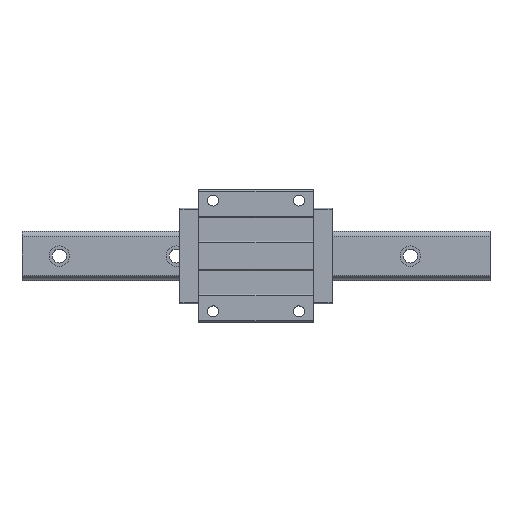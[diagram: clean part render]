
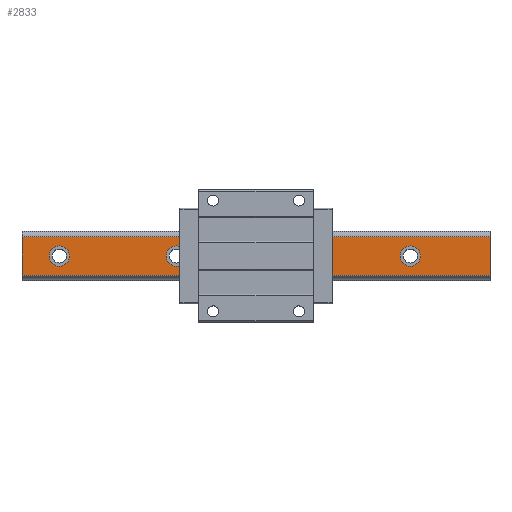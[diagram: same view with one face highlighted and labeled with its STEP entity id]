
A CAD part, top view. The second image highlights one B-rep face of the part: STEP entity #2833.
In plain terms, the highlighted planar face has unit normal (0, 0, 1).
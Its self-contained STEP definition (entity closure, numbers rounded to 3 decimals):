
#86 = VERTEX_POINT ( 'NONE', #6831 ) ;
#120 = CARTESIAN_POINT ( 'NONE',  ( 198., 0., 53. ) ) ;
#127 = AXIS2_PLACEMENT_3D ( 'NONE', #840, #4719, #6979 ) ;
#132 = DIRECTION ( 'NONE',  ( 1., 0., 0. ) ) ;
#221 = ORIENTED_EDGE ( 'NONE', *, *, #2908, .F. ) ;
#354 = VECTOR ( 'NONE', #6752, 1000. ) ;
#395 = CARTESIAN_POINT ( 'NONE',  ( -300., 24.864, 53. ) ) ;
#460 = CARTESIAN_POINT ( 'NONE',  ( -102., 0., 53. ) ) ;
#468 = FACE_BOUND ( 'NONE', #4898, .T. ) ;
#471 = CIRCLE ( 'NONE', #127, 13. ) ;
#628 = CARTESIAN_POINT ( 'NONE',  ( 198., 0., 53. ) ) ;
#787 = DIRECTION ( 'NONE',  ( 0., 0., 1. ) ) ;
#840 = CARTESIAN_POINT ( 'NONE',  ( 48., 0., 53. ) ) ;
#1103 = DIRECTION ( 'NONE',  ( 1., 0., 0. ) ) ;
#1121 = ORIENTED_EDGE ( 'NONE', *, *, #1409, .F. ) ;
#1158 = DIRECTION ( 'NONE',  ( 0., 0., 1. ) ) ;
#1159 = EDGE_LOOP ( 'NONE', ( #6527, #7162, #7146, #1710 ) ) ;
#1172 = EDGE_CURVE ( 'NONE', #5797, #2876, #3180, .T. ) ;
#1303 = VERTEX_POINT ( 'NONE', #5754 ) ;
#1350 = ORIENTED_EDGE ( 'NONE', *, *, #5137, .F. ) ;
#1366 = CARTESIAN_POINT ( 'NONE',  ( 300., 24.864, 53. ) ) ;
#1373 = EDGE_CURVE ( 'NONE', #1303, #5797, #6455, .T. ) ;
#1409 = EDGE_CURVE ( 'NONE', #2025, #6217, #471, .T. ) ;
#1435 = ORIENTED_EDGE ( 'NONE', *, *, #2199, .F. ) ;
#1524 = VERTEX_POINT ( 'NONE', #6157 ) ;
#1606 = VECTOR ( 'NONE', #2531, 1000. ) ;
#1622 = EDGE_CURVE ( 'NONE', #6217, #2025, #2277, .T. ) ;
#1668 = DIRECTION ( 'NONE',  ( 1., 0., 0. ) ) ;
#1677 = FACE_OUTER_BOUND ( 'NONE', #1159, .T. ) ;
#1698 = CARTESIAN_POINT ( 'NONE',  ( 61., 0., 53. ) ) ;
#1710 = ORIENTED_EDGE ( 'NONE', *, *, #3710, .T. ) ;
#1722 = CARTESIAN_POINT ( 'NONE',  ( 211., 0., 53. ) ) ;
#1747 = DIRECTION ( 'NONE',  ( 0., 0., 1. ) ) ;
#1758 = CIRCLE ( 'NONE', #4096, 13. ) ;
#1759 = CARTESIAN_POINT ( 'NONE',  ( -102., 0., 53. ) ) ;
#1803 = EDGE_LOOP ( 'NONE', ( #5513, #4900 ) ) ;
#1810 = CIRCLE ( 'NONE', #5593, 13. ) ;
#1844 = DIRECTION ( 'NONE',  ( 0., 0., 1. ) ) ;
#1872 = CIRCLE ( 'NONE', #4600, 13. ) ;
#1914 = CARTESIAN_POINT ( 'NONE',  ( -252., 0., 53. ) ) ;
#1969 = CARTESIAN_POINT ( 'NONE',  ( 300., -24.864, 53. ) ) ;
#2025 = VERTEX_POINT ( 'NONE', #1698 ) ;
#2134 = EDGE_CURVE ( 'NONE', #2624, #4894, #1872, .T. ) ;
#2199 = EDGE_CURVE ( 'NONE', #1524, #2815, #7081, .T. ) ;
#2230 = CARTESIAN_POINT ( 'NONE',  ( -252., 0., 53. ) ) ;
#2277 = CIRCLE ( 'NONE', #5469, 13. ) ;
#2394 = CARTESIAN_POINT ( 'NONE',  ( 185., 0., 53. ) ) ;
#2443 = DIRECTION ( 'NONE',  ( 1., 0., 0. ) ) ;
#2482 = DIRECTION ( 'NONE',  ( 1., 0., 0. ) ) ;
#2531 = DIRECTION ( 'NONE',  ( -1., 0., 0. ) ) ;
#2624 = VERTEX_POINT ( 'NONE', #2394 ) ;
#2755 = DIRECTION ( 'NONE',  ( 0., 1., 0. ) ) ;
#2797 = EDGE_LOOP ( 'NONE', ( #1121, #4417 ) ) ;
#2815 = VERTEX_POINT ( 'NONE', #3468 ) ;
#2833 = ADVANCED_FACE ( 'NONE', ( #5682, #2869, #7317, #468, #1677 ), #5057, .F. ) ;
#2869 = FACE_BOUND ( 'NONE', #2797, .T. ) ;
#2876 = VERTEX_POINT ( 'NONE', #5133 ) ;
#2908 = EDGE_CURVE ( 'NONE', #3895, #86, #7287, .T. ) ;
#2912 = DIRECTION ( 'NONE',  ( 1., 0., 0. ) ) ;
#3106 = VECTOR ( 'NONE', #6491, 1000. ) ;
#3180 = LINE ( 'NONE', #3765, #354 ) ;
#3384 = DIRECTION ( 'NONE',  ( 0., 0., 1. ) ) ;
#3408 = AXIS2_PLACEMENT_3D ( 'NONE', #460, #7265, #1103 ) ;
#3468 = CARTESIAN_POINT ( 'NONE',  ( -239., 0., 53. ) ) ;
#3642 = AXIS2_PLACEMENT_3D ( 'NONE', #1914, #787, #2482 ) ;
#3687 = CARTESIAN_POINT ( 'NONE',  ( 300., -24.864, 53. ) ) ;
#3710 = EDGE_CURVE ( 'NONE', #1303, #6317, #4301, .T. ) ;
#3765 = CARTESIAN_POINT ( 'NONE',  ( 300., -24.864, 53. ) ) ;
#3775 = EDGE_LOOP ( 'NONE', ( #221, #1350 ) ) ;
#3895 = VERTEX_POINT ( 'NONE', #6741 ) ;
#4014 = DIRECTION ( 'NONE',  ( 1., 0., 0. ) ) ;
#4088 = AXIS2_PLACEMENT_3D ( 'NONE', #1759, #5569, #4014 ) ;
#4096 = AXIS2_PLACEMENT_3D ( 'NONE', #628, #1158, #2912 ) ;
#4239 = CARTESIAN_POINT ( 'NONE',  ( 35., 0., 53. ) ) ;
#4301 = LINE ( 'NONE', #1366, #1606 ) ;
#4344 = CIRCLE ( 'NONE', #3408, 13. ) ;
#4417 = ORIENTED_EDGE ( 'NONE', *, *, #1622, .F. ) ;
#4600 = AXIS2_PLACEMENT_3D ( 'NONE', #120, #1844, #2443 ) ;
#4640 = CARTESIAN_POINT ( 'NONE',  ( 48., 0., 53. ) ) ;
#4719 = DIRECTION ( 'NONE',  ( 0., 0., 1. ) ) ;
#4894 = VERTEX_POINT ( 'NONE', #1722 ) ;
#4898 = EDGE_LOOP ( 'NONE', ( #5802, #1435 ) ) ;
#4900 = ORIENTED_EDGE ( 'NONE', *, *, #2134, .F. ) ;
#4902 = EDGE_CURVE ( 'NONE', #4894, #2624, #1758, .T. ) ;
#4978 = DIRECTION ( 'NONE',  ( 0., 0., -1. ) ) ;
#5057 = PLANE ( 'NONE',  #6817 ) ;
#5133 = CARTESIAN_POINT ( 'NONE',  ( -300., -24.864, 53. ) ) ;
#5137 = EDGE_CURVE ( 'NONE', #86, #3895, #4344, .T. ) ;
#5242 = VECTOR ( 'NONE', #6430, 1000. ) ;
#5469 = AXIS2_PLACEMENT_3D ( 'NONE', #4640, #1747, #132 ) ;
#5513 = ORIENTED_EDGE ( 'NONE', *, *, #4902, .F. ) ;
#5569 = DIRECTION ( 'NONE',  ( 0., 0., 1. ) ) ;
#5593 = AXIS2_PLACEMENT_3D ( 'NONE', #2230, #3384, #1668 ) ;
#5682 = FACE_BOUND ( 'NONE', #1803, .T. ) ;
#5754 = CARTESIAN_POINT ( 'NONE',  ( 300., 24.864, 53. ) ) ;
#5797 = VERTEX_POINT ( 'NONE', #3687 ) ;
#5802 = ORIENTED_EDGE ( 'NONE', *, *, #6881, .F. ) ;
#6129 = EDGE_CURVE ( 'NONE', #6317, #2876, #6462, .T. ) ;
#6157 = CARTESIAN_POINT ( 'NONE',  ( -265., 0., 53. ) ) ;
#6217 = VERTEX_POINT ( 'NONE', #4239 ) ;
#6317 = VERTEX_POINT ( 'NONE', #395 ) ;
#6396 = CARTESIAN_POINT ( 'NONE',  ( -300., -24.864, 53. ) ) ;
#6430 = DIRECTION ( 'NONE',  ( 0., -1., 0. ) ) ;
#6455 = LINE ( 'NONE', #1969, #3106 ) ;
#6462 = LINE ( 'NONE', #6396, #5242 ) ;
#6491 = DIRECTION ( 'NONE',  ( 0., -1., 0. ) ) ;
#6527 = ORIENTED_EDGE ( 'NONE', *, *, #6129, .T. ) ;
#6741 = CARTESIAN_POINT ( 'NONE',  ( -89., 0., 53. ) ) ;
#6752 = DIRECTION ( 'NONE',  ( -1., 0., 0. ) ) ;
#6794 = CARTESIAN_POINT ( 'NONE',  ( 300., -24.864, 53. ) ) ;
#6817 = AXIS2_PLACEMENT_3D ( 'NONE', #6794, #4978, #2755 ) ;
#6831 = CARTESIAN_POINT ( 'NONE',  ( -115., 0., 53. ) ) ;
#6881 = EDGE_CURVE ( 'NONE', #2815, #1524, #1810, .T. ) ;
#6979 = DIRECTION ( 'NONE',  ( 1., 0., 0. ) ) ;
#7081 = CIRCLE ( 'NONE', #3642, 13. ) ;
#7146 = ORIENTED_EDGE ( 'NONE', *, *, #1373, .F. ) ;
#7162 = ORIENTED_EDGE ( 'NONE', *, *, #1172, .F. ) ;
#7265 = DIRECTION ( 'NONE',  ( 0., 0., 1. ) ) ;
#7287 = CIRCLE ( 'NONE', #4088, 13. ) ;
#7317 = FACE_BOUND ( 'NONE', #3775, .T. ) ;
